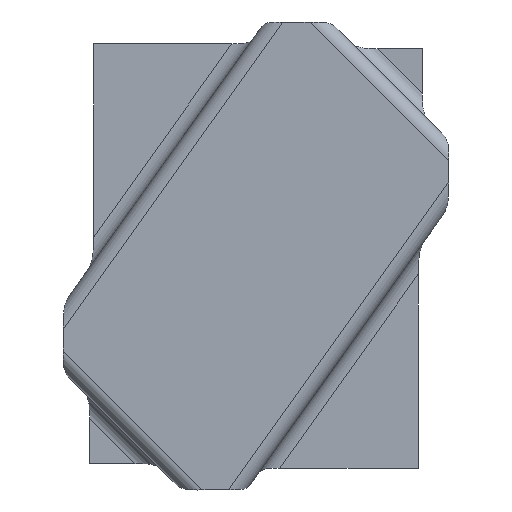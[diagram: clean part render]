
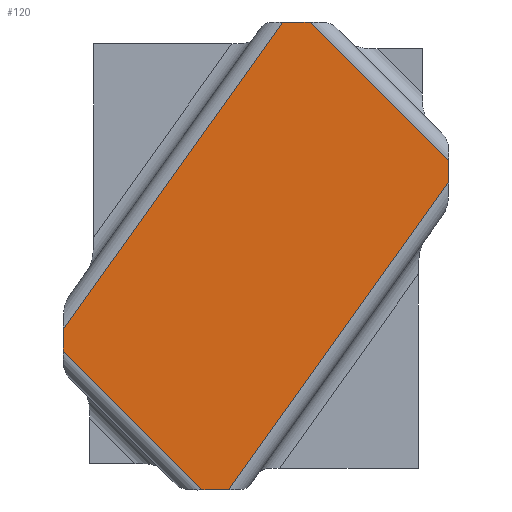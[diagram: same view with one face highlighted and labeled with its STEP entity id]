
A CAD part, top view. The second image highlights one B-rep face of the part: STEP entity #120.
In plain terms, the highlighted planar face has unit normal (0, 0, -1).
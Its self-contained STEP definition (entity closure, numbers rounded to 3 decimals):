
#53=CARTESIAN_POINT('Axis2P3D Location',(-52.212,37.331,64.685)) ;
#59=CARTESIAN_POINT('Control Point',(-52.212,76.506,64.685)) ;
#60=CARTESIAN_POINT('Control Point',(1.288,151.331,64.685)) ;
#61=CARTESIAN_POINT('Vertex',(-52.212,76.506,64.685)) ;
#63=CARTESIAN_POINT('Vertex',(1.288,151.331,64.685)) ;
#66=CARTESIAN_POINT('Line Origine',(-5.212,151.331,64.685)) ;
#70=CARTESIAN_POINT('Vertex',(7.962,151.331,64.685)) ;
#74=CARTESIAN_POINT('Control Point',(7.962,151.331,64.685)) ;
#75=CARTESIAN_POINT('Control Point',(41.788,117.505,64.685)) ;
#76=CARTESIAN_POINT('Vertex',(41.788,117.505,64.685)) ;
#79=CARTESIAN_POINT('Line Origine',(41.788,94.331,64.685)) ;
#83=CARTESIAN_POINT('Vertex',(41.788,112.388,64.685)) ;
#87=CARTESIAN_POINT('Control Point',(41.788,112.388,64.685)) ;
#88=CARTESIAN_POINT('Control Point',(-11.877,37.331,64.685)) ;
#89=CARTESIAN_POINT('Vertex',(-11.877,37.331,64.685)) ;
#92=CARTESIAN_POINT('Line Origine',(-5.212,37.331,64.685)) ;
#96=CARTESIAN_POINT('Vertex',(-18.386,37.331,64.685)) ;
#100=CARTESIAN_POINT('Control Point',(-52.212,71.157,64.685)) ;
#101=CARTESIAN_POINT('Control Point',(-18.386,37.331,64.685)) ;
#102=CARTESIAN_POINT('Vertex',(-52.212,71.157,64.685)) ;
#105=CARTESIAN_POINT('Line Origine',(-52.212,94.331,64.685)) ;
#54=DIRECTION('Axis2P3D Direction',(0.,0.,1.)) ;
#55=DIRECTION('Axis2P3D XDirection',(1.,0.,0.)) ;
#67=DIRECTION('Vector Direction',(1.,0.,0.)) ;
#80=DIRECTION('Vector Direction',(0.,1.,0.)) ;
#93=DIRECTION('Vector Direction',(1.,0.,0.)) ;
#106=DIRECTION('Vector Direction',(0.,1.,0.)) ;
#56=AXIS2_PLACEMENT_3D('Plane Axis2P3D',#53,#54,#55) ;
#111=ORIENTED_EDGE('',*,*,#65,.T.) ;
#112=ORIENTED_EDGE('',*,*,#72,.T.) ;
#113=ORIENTED_EDGE('',*,*,#78,.T.) ;
#114=ORIENTED_EDGE('',*,*,#85,.T.) ;
#115=ORIENTED_EDGE('',*,*,#91,.T.) ;
#116=ORIENTED_EDGE('',*,*,#98,.T.) ;
#117=ORIENTED_EDGE('',*,*,#104,.F.) ;
#118=ORIENTED_EDGE('',*,*,#109,.T.) ;
#68=VECTOR('Line Direction',#67,1.) ;
#81=VECTOR('Line Direction',#80,1.) ;
#94=VECTOR('Line Direction',#93,1.) ;
#107=VECTOR('Line Direction',#106,1.) ;
#120=ADVANCED_FACE('Offset.1',(#119),#57,.F.) ;
#58=B_SPLINE_CURVE_WITH_KNOTS('',1,(#59,#60),.UNSPECIFIED.,.F.,.U.,(2,2),(-45.992,45.992),.UNSPECIFIED.) ;
#73=B_SPLINE_CURVE_WITH_KNOTS('',1,(#74,#75),.UNSPECIFIED.,.F.,.U.,(2,2),(-23.919,23.919),.UNSPECIFIED.) ;
#86=B_SPLINE_CURVE_WITH_KNOTS('',1,(#87,#88),.UNSPECIFIED.,.F.,.U.,(2,2),(-46.134,46.134),.UNSPECIFIED.) ;
#99=B_SPLINE_CURVE_WITH_KNOTS('',1,(#100,#101),.UNSPECIFIED.,.F.,.U.,(2,2),(-23.919,23.919),.UNSPECIFIED.) ;
#65=EDGE_CURVE('',#62,#64,#58,.T.) ;
#72=EDGE_CURVE('',#64,#71,#69,.T.) ;
#78=EDGE_CURVE('',#71,#77,#73,.T.) ;
#85=EDGE_CURVE('',#77,#84,#82,.F.) ;
#91=EDGE_CURVE('',#84,#90,#86,.T.) ;
#98=EDGE_CURVE('',#90,#97,#95,.F.) ;
#104=EDGE_CURVE('',#103,#97,#99,.T.) ;
#109=EDGE_CURVE('',#103,#62,#108,.T.) ;
#110=EDGE_LOOP('',(#111,#112,#113,#114,#115,#116,#117,#118)) ;
#119=FACE_OUTER_BOUND('',#110,.T.) ;
#69=LINE('Line',#66,#68) ;
#82=LINE('Line',#79,#81) ;
#95=LINE('Line',#92,#94) ;
#108=LINE('Line',#105,#107) ;
#57=PLANE('',#56) ;
#62=VERTEX_POINT('',#61) ;
#64=VERTEX_POINT('',#63) ;
#71=VERTEX_POINT('',#70) ;
#77=VERTEX_POINT('',#76) ;
#84=VERTEX_POINT('',#83) ;
#90=VERTEX_POINT('',#89) ;
#97=VERTEX_POINT('',#96) ;
#103=VERTEX_POINT('',#102) ;
